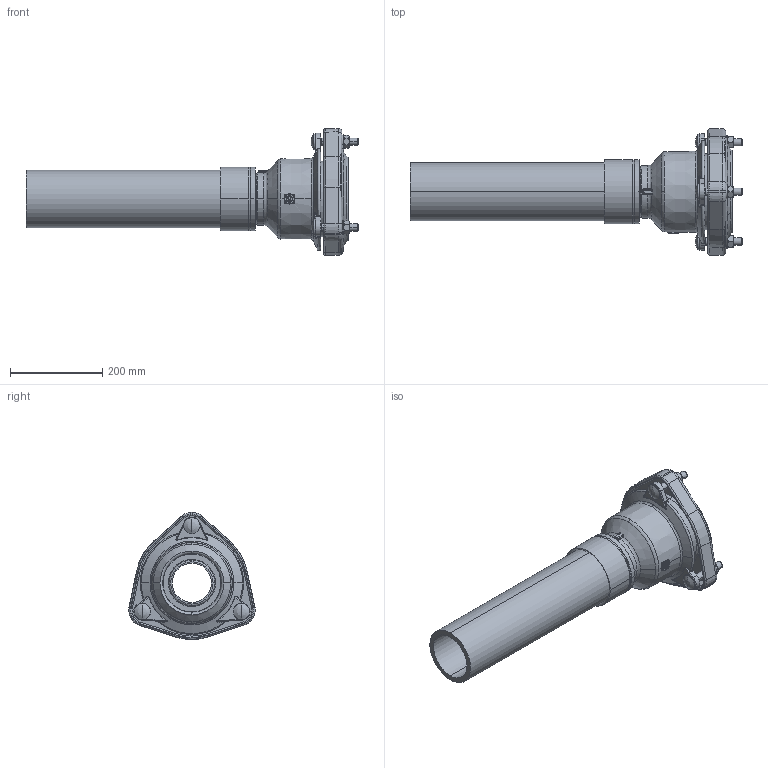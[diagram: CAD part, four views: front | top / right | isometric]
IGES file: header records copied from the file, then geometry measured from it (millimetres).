
Global section: file name: No Iges File Name specified; native system: AutoDesk Inventor R12.0; preprocessor: AutoDesk Inventor Iges Exporter R12.0; date: 20120509.104815; units: millimetre
Bounding box: 719 x 274.22 x 275.22 mm (x, y, z)
Volume: 3755645.7 mm3; surface area: 832773.4 mm2
Topology: 1 solids, 1 shells, 582 faces, 1499 edges, 937 vertices
Faces by surface type: plane 149, cylinder 114, bspline 87, revolution 86, cone 77, torus 69
